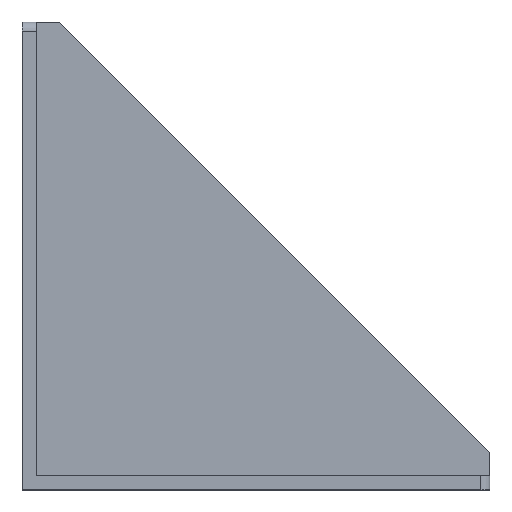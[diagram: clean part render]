
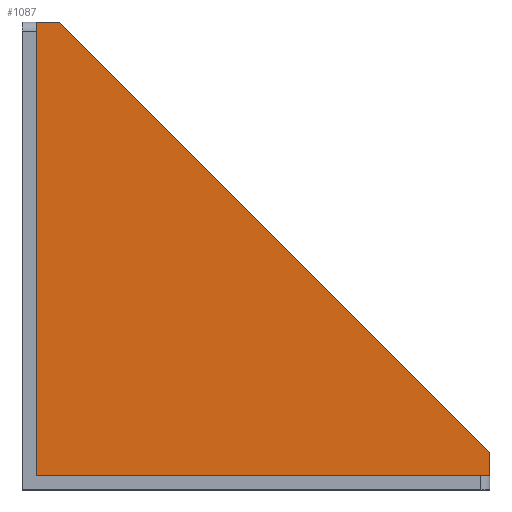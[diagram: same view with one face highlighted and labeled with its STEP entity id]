
A CAD part, top view. The second image highlights one B-rep face of the part: STEP entity #1087.
In plain terms, the highlighted planar face has unit normal (0, 0, 1).
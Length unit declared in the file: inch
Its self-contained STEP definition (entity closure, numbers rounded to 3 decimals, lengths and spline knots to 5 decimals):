
#114=CARTESIAN_POINT('',(-153.32306,32.50483,-15.));
#115=VERTEX_POINT('',#114);
#122=CARTESIAN_POINT('',(-153.32306,27.50483,-15.));
#123=VERTEX_POINT('',#122);
#124=CARTESIAN_POINT('',(-153.32306,32.50483,-15.));
#125=DIRECTION('',(0.0,-1.0,0.0));
#126=VECTOR('',#125,5.);
#127=LINE('',#124,#126);
#128=EDGE_CURVE('',#115,#123,#127,.T.);
#387=CARTESIAN_POINT('',(-250.32306,124.50483,-15.));
#388=VERTEX_POINT('',#387);
#395=CARTESIAN_POINT('',(-245.32306,124.50483,-15.));
#396=VERTEX_POINT('',#395);
#397=CARTESIAN_POINT('',(-250.32306,124.50483,-15.));
#398=DIRECTION('',(1.0,0.0,0.0));
#399=VECTOR('',#398,5.);
#400=LINE('',#397,#399);
#401=EDGE_CURVE('',#388,#396,#400,.T.);
#493=CARTESIAN_POINT('',(-250.32306,27.50483,-15.));
#494=VERTEX_POINT('',#493);
#501=CARTESIAN_POINT('',(-250.32306,27.50483,-15.));
#502=DIRECTION('',(0.0,1.0,0.0));
#503=VECTOR('',#502,97.);
#504=LINE('',#501,#503);
#505=EDGE_CURVE('',#494,#388,#504,.T.);
#998=CARTESIAN_POINT('',(-153.32306,27.50483,-15.));
#999=DIRECTION('',(-1.0,0.0,0.0));
#1000=VECTOR('',#999,97.0);
#1001=LINE('',#998,#1000);
#1002=EDGE_CURVE('',#123,#494,#1001,.T.);
#1045=CARTESIAN_POINT('',(-245.32306,124.50483,-15.));
#1046=DIRECTION('',(0.707,-0.707,0.0));
#1047=VECTOR('',#1046,130.10765);
#1048=LINE('',#1045,#1047);
#1049=EDGE_CURVE('',#396,#115,#1048,.T.);
#1075=CARTESIAN_POINT('',(-245.32306,124.50483,-15.));
#1076=DIRECTION('',(0.0,0.0,-1.0));
#1077=DIRECTION('',(-1.0,0.0,0.0));
#1078=AXIS2_PLACEMENT_3D('',#1075,#1076,#1077);
#1079=PLANE('',#1078);
#1080=ORIENTED_EDGE('',*,*,#1049,.F.);
#1081=ORIENTED_EDGE('',*,*,#401,.F.);
#1082=ORIENTED_EDGE('',*,*,#505,.F.);
#1083=ORIENTED_EDGE('',*,*,#1002,.F.);
#1084=ORIENTED_EDGE('',*,*,#128,.F.);
#1085=EDGE_LOOP('',(#1080,#1081,#1082,#1083,#1084));
#1086=FACE_OUTER_BOUND('',#1085,.T.);
#1087=ADVANCED_FACE('',(#1086),#1079,.F.);
